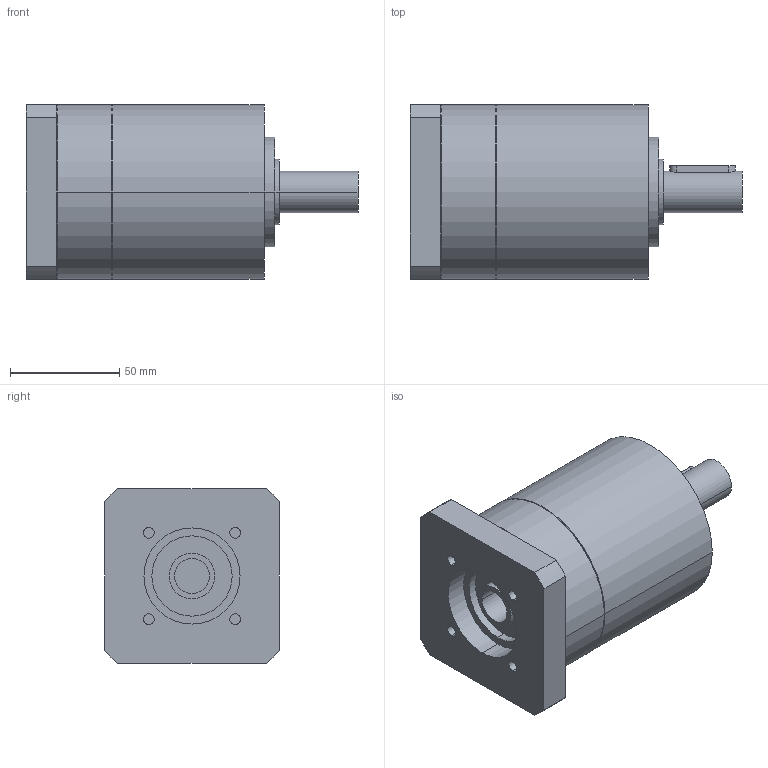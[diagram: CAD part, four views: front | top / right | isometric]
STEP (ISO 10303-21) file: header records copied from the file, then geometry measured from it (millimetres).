
FILE_DESCRIPTION(('CoCreate Modeling STEP Export'),'2;1');
FILE_NAME('GPR100_ig-3-4-5-6_19_B14_16_P31.stp','2014-08-26T10:08:27',(''),(''),'CoCreate Modeling STEP processor for AP214 (Solid Model)','CoCreate Modeling 16.00C 25-Feb-2009 (C) Parametric Technology GmbH','');
FILE_SCHEMA(('AUTOMOTIVE_DESIGN { 1 0 10303 214 1 1 1 1 }'));
Length unit declared in the file: millimetre
Products named in the file (2): GPR100_ig-3-4-5-6_19_B14_16_P31
Assembly tree (1 placements, depth 2):
  GPR100_ig-3-4-5-6_19_B14_16_P31
    GPR100_ig-3-4-5-6_19_B14_16_P31
Bounding box: 152 x 80 x 80 mm (x, y, z)
Volume: 560164.4 mm3; surface area: 50841.9 mm2
Topology: 1 solids, 1 shells, 74 faces, 187 edges, 131 vertices
Faces by surface type: cylinder 42, plane 26, cone 6
Entity records: 1943 total; most frequent: ORIENTED_EDGE 370, CARTESIAN_POINT 360, DIRECTION 264, EDGE_CURVE 185, VERTEX_POINT 131, AXIS2_PLACEMENT_3D 99, EDGE_LOOP 92, FACE_OUTER_BOUND 74
